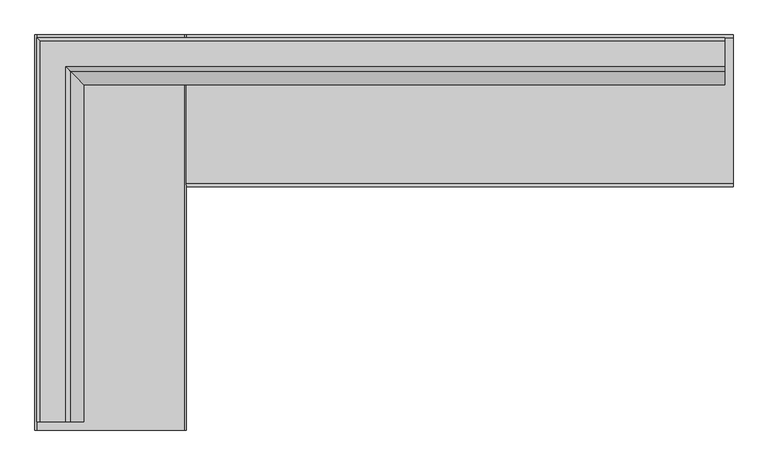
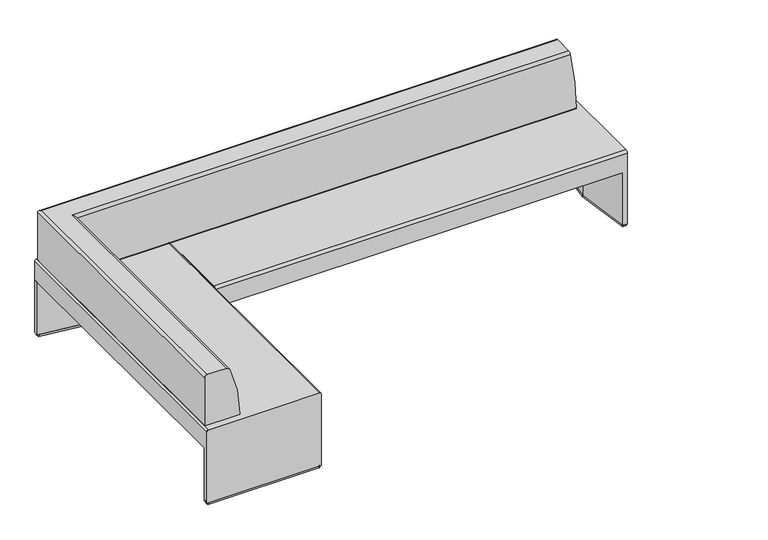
"""IFC4 building model written with IfcOpenShell, lengths in millimetres: furniture geometry, Coalesse_AM_Seating_Bench_Together_LeftCorner : 1.5in Back Offset - 69.75D x 123.25W."""

from ifc_helpers import new_model, si_unit, point, frame, frame_2d, origin, origin_with_axes, place, context, project, spatial, polyline, circle_curve, ellipse_curve, trimmed, segment, composite_curve, outline, extrude, source, transform, mapped, element, save
from ifc_brep_helpers import plane_surface, cylinder_surface, advanced_brep


def furniture_92f7da50(model_context):
    return source(origin(), model_context, "Body", "SolidModel", [
        extrude(outline(composite_curve([segment(polyline([(2381.1760341, 342.7173042), (2424.8994541, 668.3404046)]), True, "CONTINUOUS"), segment(trimmed(circle_curve(frame_2d((2431.8678665, 667.4047129)), 7.0309522), [point((2424.8994541, 668.3404046))], [point((2431.8621236, 674.4356628))], False, "CARTESIAN"), True, "CONTINUOUS"), segment(polyline([(2431.8621236, 674.4356628), (2444.385141, 674.4458915)]), True, "CONTINUOUS"), segment(trimmed(circle_curve(frame_2d((2444.3903277, 668.0958937)), 6.35), [point((2444.385141, 674.4458915))], [point((2450.7403256, 668.1010803))], False, "CARTESIAN"), True, "CONTINUOUS"), segment(polyline([(2450.7403256, 668.1010803), (2451.2758418, 12.4700002)]), True, "CONTINUOUS"), segment(trimmed(circle_curve(frame_2d((2444.9258439, 12.4648135)), 6.35), [point((2451.2758418, 12.4700002))], [point((2444.9310305, 6.1148157))], False, "CARTESIAN"), True, "CONTINUOUS"), segment(polyline([(2444.9310305, 6.1148157), (2432.4737657, 6.1046406)]), True, "CONTINUOUS"), segment(trimmed(circle_curve(frame_2d((2432.4685791, 12.4546385)), 6.35), [point((2432.4737657, 6.1046406))], [point((2426.1764214, 11.5995062))], False, "CARTESIAN"), True, "CONTINUOUS"), segment(polyline([(2426.1764214, 11.5995062), (2381.1760341, 342.7173042)]), True, "CONTINUOUS")], self_intersect=False)), origin_with_axes(), (0.0, 0.0, 1.0), 12.7976677),
        extrude(outline(composite_curve([segment(polyline([(-342.242834, 610.6565573), (-667.8301127, 654.6459299)]), True, "CONTINUOUS"), segment(trimmed(circle_curve(frame_2d((-666.8887296, 661.6135757)), 7.0309522), [point((-667.8301127, 654.6459299))], [point((-673.9196818, 661.6135757))], False, "CARTESIAN"), True, "CONTINUOUS"), segment(polyline([(-673.9196818, 661.6135757), (-673.9196818, 674.1365973)]), True, "CONTINUOUS"), segment(trimmed(circle_curve(frame_2d((-667.5696818, 674.1365973)), 6.35), [point((-673.9196818, 674.1365973))], [point((-667.5696818, 680.4865973))], False, "CARTESIAN"), True, "CONTINUOUS"), segment(polyline([(-667.5696818, 680.4865973), (-11.938383, 680.4865973)]), True, "CONTINUOUS"), segment(trimmed(circle_curve(frame_2d((-11.938383, 674.1365973)), 6.35), [point((-11.938383, 680.4865973))], [point((-5.588383, 674.1365973))], False, "CARTESIAN"), True, "CONTINUOUS"), segment(polyline([(-5.588383, 674.1365973), (-5.588383, 661.6793283)]), True, "CONTINUOUS"), segment(trimmed(circle_curve(frame_2d((-11.938383, 661.6793283)), 6.35), [point((-5.588383, 661.6793283))], [point((-11.0883904, 655.3864742))], False, "CARTESIAN"), True, "CONTINUOUS"), segment(polyline([(-11.0883904, 655.3864742), (-342.242834, 610.6565573)]), True, "CONTINUOUS")], self_intersect=False)), origin_with_axes(), (0.0, 0.0, 1.0), 12.7976677),
        extrude(outline(composite_curve([segment(polyline([(-342.242834, -1020.6704812), (-11.0883904, -1065.4003981)]), True, "CONTINUOUS"), segment(trimmed(circle_curve(frame_2d((-11.938383, -1071.6932522)), 6.35), [point((-11.0883904, -1065.4003981))], [point((-5.588383, -1071.6932522))], False, "CARTESIAN"), True, "CONTINUOUS"), segment(polyline([(-5.588383, -1071.6932522), (-5.588383, -1084.1505212)]), True, "CONTINUOUS"), segment(trimmed(circle_curve(frame_2d((-11.938383, -1084.1505212)), 6.35), [point((-5.588383, -1084.1505212))], [point((-11.938383, -1090.5005212))], False, "CARTESIAN"), True, "CONTINUOUS"), segment(polyline([(-11.938383, -1090.5005212), (-667.5696818, -1090.5005212)]), True, "CONTINUOUS"), segment(trimmed(circle_curve(frame_2d((-667.5696818, -1084.1505212)), 6.35), [point((-667.5696818, -1090.5005212))], [point((-673.9196818, -1084.1505212))], False, "CARTESIAN"), True, "CONTINUOUS"), segment(polyline([(-673.9196818, -1084.1505212), (-673.9196818, -1071.6274996)]), True, "CONTINUOUS"), segment(trimmed(circle_curve(frame_2d((-666.8887296, -1071.6274996)), 7.0309522), [point((-673.9196818, -1071.6274996))], [point((-667.8301127, -1064.6598538))], False, "CARTESIAN"), True, "CONTINUOUS"), segment(polyline([(-667.8301127, -1064.6598538), (-342.242834, -1020.6704812)]), True, "CONTINUOUS")], self_intersect=False)), origin_with_axes(), (0.0, 0.0, 1.0), 12.7976677),
        advanced_brep(
        [(2451.2283223, 12.7, 471.2287949), (2451.2283223, 0.0, 458.5287949), (2451.2283223, 0.0, 12.7976677), (2451.2283223, 680.4865973, 12.7976677), (2451.2283223, 680.4865973, 458.5287949), (2451.2283223, 667.7865973, 471.2287949), (0.0, 12.7, 471.2287949), (0.0, 667.7865973, 471.2287949), (0.0, 680.4865973, 458.5287949), (0.0, 680.4865973, 343.3718099), (0.0, 0.0, 343.3718099), (0.0, 0.0, 458.5287949), (2425.0526241, 0.0, 343.3718099), (2425.0515424, 0.0, 12.7976677), (2425.3585944, 680.4865973, 343.3718099), (2380.7200419, 337.8527218, 343.3718099), (2425.3596556, 680.4865973, 12.7976677), (2380.7200419, 337.8527218, 12.7976677)],
        [
            (0, 1, circle_curve(frame((2451.2283223, 12.7, 458.5287949), z_axis=(1.0, 0.0, 0.0), x_axis=(0.0, -1.0, 0.0)), 12.7)),
            (1, 2),
            (2, 3),
            (3, 4),
            (4, 5, circle_curve(frame((2451.2283223, 667.7865973, 458.5287949), z_axis=(1.0, 0.0, 0.0), x_axis=(0.0, -1.0, 0.0)), 12.7)),
            (5, 0),
            (6, 7),
            (7, 8, circle_curve(frame((0.0, 667.7865973, 458.5287949), z_axis=(-1.0, 0.0, 0.0), x_axis=(0.0, -1.0, 0.0)), 12.7)),
            (8, 9),
            (9, 10),
            (10, 11),
            (11, 6, circle_curve(frame((0.0, 12.7, 458.5287949), z_axis=(-1.0, 0.0, 0.0), x_axis=(0.0, -1.0, 0.0)), 12.7)),
            (0, 6),
            (11, 1),
            (10, 12),
            (12, 13),
            (13, 2),
            (9, 14),
            (14, 15),
            (15, 12),
            (3, 16),
            (16, 14),
            (8, 4),
            (7, 5),
            (17, 16),
            (13, 17),
            (15, 17),
        ],
        [
            plane_surface(frame((2451.2283223, 0.0, 458.5287949), z_axis=(1.0, 0.0, 0.0), x_axis=(0.0, 0.0, -1.0))),
            plane_surface(frame((0.0, 0.0, 458.5287949), z_axis=(-1.0, 0.0, 0.0), x_axis=(0.0, 0.0, 1.0))),
            cylinder_surface(frame((0.0, 12.7, 458.5287949), z_axis=(1.0, 0.0, 0.0), x_axis=(0.0, -1.0, 0.0)), 12.7),
            plane_surface(frame((2451.2283223, 0.0, 458.5287949), z_axis=(0.0, -1.0, 0.0), x_axis=(-1.0, 0.0, 0.0))),
            plane_surface(frame((2451.2283223, 0.0, 343.3718099), z_axis=(0.0, 0.0, -1.0), x_axis=(-1.0, 0.0, 0.0))),
            plane_surface(frame((2451.2283223, 680.4865973, 343.3718099), z_axis=(0.0, 1.0, 0.0), x_axis=(-1.0, 0.0, 0.0))),
            cylinder_surface(frame((0.0, 667.7865973, 458.5287949), z_axis=(1.0, 0.0, 0.0), x_axis=(0.0, -1.0, 0.0)), 12.7),
            plane_surface(frame((2451.2283223, 667.7865973, 471.2287949), z_axis=(0.0, 0.0, 1.0), x_axis=(-1.0, 0.0, 0.0))),
            plane_surface(frame((2380.7200419, 337.8527218, 12.7976677), z_axis=(0.0, 0.0, -1.0), x_axis=(-0.13010336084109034, 0.9915004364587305, 0.0))),
            plane_surface(frame((2380.7200419, 337.8527218, 343.3718099), z_axis=(-0.9915004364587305, -0.13010336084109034, 0.0), x_axis=(0.0, 0.0, -1.0))),
            plane_surface(frame((2425.3596556, 680.4947435, 343.3718099), z_axis=(-0.9916200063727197, 0.1291888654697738, 0.0), x_axis=(0.0, 0.0, -1.0))),
        ],
        [
            (0, [[1, 2, 3, 4, 5, 6]]),
            (1, [[7, 8, 9, 10, 11, 12]]),
            (2, [[-1, 13, -12, 14]]),
            (3, [[-2, -14, -11, 15, 16, 17]]),
            (4, [[-10, 18, 19, 20, -15]]),
            (5, [[-4, 21, 22, -18, -9, 23]]),
            (6, [[-5, -23, -8, 24]]),
            (7, [[-6, -24, -7, -13]]),
            (8, [[25, -21, -3, -17, 26]]),
            (9, [[-26, -16, -20, 27]]),
            (10, [[-25, -27, -19, -22]]),
        ],
    ),
        advanced_brep(
        [(0.0, -1091.3836068, 462.8584293), (-8.3703656, -1091.3836068, 471.2287949), (-669.1616777, -1091.3836068, 471.2287949), (-679.3216777, -1091.3836068, 461.0687949), (-679.3216777, -1091.3836068, 12.7976677), (0.0, -1091.3836068, 12.7976677), (0.0, 680.2663932, 343.3718099), (-679.3216777, 680.2663932, 343.3718099), (-679.3216777, 680.2663932, 461.0687949), (-669.1616777, 680.2663932, 471.2287949), (-8.3703656, 680.2663932, 471.2287949), (0.0, 680.2663932, 462.8584293), (0.0, -1065.3918934, 12.7976677), (0.0, -1065.3918934, 343.3718099), (-679.3216777, -1065.3918934, 343.3718099), (-679.3216777, -1065.3918934, 12.7976677), (-337.6103648, -1020.9829621, 343.3718099), (-337.6103648, -1020.9829621, 12.7976677)],
        [
            (0, 1, circle_curve(frame((-8.3703656, -1091.3836068, 462.8584293), z_axis=(0.0, -1.0, 0.0), x_axis=(1.0, 0.0, 0.0)), 8.3703656)),
            (1, 2),
            (2, 3, circle_curve(frame((-669.1616777, -1091.3836068, 461.0687949), z_axis=(0.0, -1.0, 0.0), x_axis=(1.0, 0.0, 0.0)), 10.16)),
            (3, 4),
            (4, 5),
            (5, 0),
            (6, 7),
            (7, 8),
            (8, 9, circle_curve(frame((-669.1616777, 680.2663932, 461.0687949), z_axis=(0.0, 1.0, 0.0), x_axis=(1.0, 0.0, 0.0)), 10.16)),
            (9, 10),
            (10, 11, circle_curve(frame((-8.3703656, 680.2663932, 462.8584293), z_axis=(0.0, 1.0, 0.0), x_axis=(1.0, 0.0, 0.0)), 8.3703656)),
            (11, 6),
            (5, 12),
            (12, 13),
            (13, 6),
            (11, 0),
            (10, 1),
            (9, 2),
            (8, 3),
            (7, 14),
            (14, 15),
            (15, 4),
            (13, 16),
            (16, 14),
            (17, 12),
            (15, 17),
            (16, 17),
        ],
        [
            plane_surface(frame((0.0, -1091.3836068, 432.906134), z_axis=(0.0, -1.0, 0.0), x_axis=(0.0, 0.0, 1.0))),
            plane_surface(frame((0.0, 680.2663932, 432.906134), z_axis=(0.0, 1.0, 0.0), x_axis=(0.0, 0.0, -1.0))),
            plane_surface(frame((0.0, -1091.3836068, 343.3718099), z_axis=(1.0, 0.0, 0.0), x_axis=(0.0, 1.0, 0.0))),
            cylinder_surface(frame((-8.3703656, 680.2663932, 462.8584293), z_axis=(0.0, -1.0, 0.0), x_axis=(1.0, 0.0, 0.0)), 8.3703656),
            plane_surface(frame((-8.3703656, -1091.3836068, 471.2287949), z_axis=(0.0, 0.0, 1.0), x_axis=(0.0, 1.0, 0.0))),
            cylinder_surface(frame((-669.1616777, 680.2663932, 461.0687949), z_axis=(0.0, -1.0, 0.0), x_axis=(1.0, 0.0, 0.0)), 10.16),
            plane_surface(frame((-679.3216777, -1091.3836068, 461.0687949), z_axis=(-1.0, 0.0, 0.0), x_axis=(0.0, 1.0, 0.0))),
            plane_surface(frame((-679.3216777, -1091.3836068, 343.3718099), z_axis=(0.0, 0.0, -1.0), x_axis=(0.0, 1.0, 0.0))),
            plane_surface(frame((-679.3216777, -1065.3918934, 12.7976677), z_axis=(0.0, 0.0, -1.0), x_axis=(0.9916606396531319, 0.12887659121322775, 0.0))),
            plane_surface(frame((-337.6103648, -1020.9829621, 343.3718099), z_axis=(-0.12887659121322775, 0.9916606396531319, 0.0), x_axis=(0.0, 0.0, -1.0))),
            plane_surface(frame((0.0, -1065.3918934, 343.3718099), z_axis=(0.13041558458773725, 0.9914594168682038, 0.0), x_axis=(0.0, 0.0, -1.0))),
        ],
        [
            (0, [[1, 2, 3, 4, 5, 6]]),
            (1, [[7, 8, 9, 10, 11, 12]]),
            (2, [[-6, 13, 14, 15, -12, 16]]),
            (3, [[-1, -16, -11, 17]]),
            (4, [[-2, -17, -10, 18]]),
            (5, [[-3, -18, -9, 19]]),
            (6, [[-4, -19, -8, 20, 21, 22]]),
            (7, [[-7, -15, 23, 24, -20]]),
            (8, [[25, -13, -5, -22, 26]]),
            (9, [[-26, -21, -24, 27]]),
            (10, [[-25, -27, -23, -14]]),
        ],
    ),
        extrude(outline(polyline([(-337.6103648, 610.0859526), (-679.4232219, 654.5080806), (-679.4232219, 680.4865973), (0.0, 680.4865973), (0.0, 654.4948838), (-337.6103648, 610.0859526)])), frame((0.0, 0.0, 12.7976677), z_axis=(0.0, 0.0, 1.0), x_axis=(1.0, 0.0, 0.0)), (0.0, 0.0, 1.0), 330.5741422),
        advanced_brep(
        [(-542.7579952, -1053.2836068, 789.6908243), (-654.9720681, -1053.2836068, 789.6908243), (-670.6127132, -1053.2836068, 774.0501793), (-670.6127132, -1053.2836068, 471.9907949), (-669.8507132, -1053.2836068, 471.2287949), (-467.2326916, -1053.2836068, 471.2287949), (-460.8827115, -1053.2836068, 477.5628851), (-521.8690853, -1053.2836068, 775.9296487), (-542.7579952, 539.2094278, 789.6908243), (2413.1283223, 539.2094278, 789.6908243), (2413.1283223, 651.4235007, 789.6908243), (-654.9720681, 651.4235007, 789.6908243), (-670.6127132, 667.0641458, 774.0501793), (-670.6127132, 667.0641458, 471.9907949), (-669.8507132, 666.3021458, 471.2287949), (2413.1283223, 666.3021458, 471.2287949), (2413.1283223, 463.6841242, 471.2287949), (-467.2326916, 463.6841242, 471.2287949), (-460.8827115, 457.3341441, 477.5628851), (-521.8690853, 518.3205179, 775.9296487), (2413.1283223, 518.3205179, 775.9296487), (2413.1283223, 457.3341441, 477.5628851), (2413.1283223, 667.0641458, 471.9907949), (2413.1283223, 667.0641458, 774.0501793)],
        [
            (0, 1),
            (1, 2, circle_curve(frame((-654.9720681, -1053.2836068, 774.0501793), z_axis=(0.0, -1.0, 0.0), x_axis=(-1.0, 0.0, 0.0)), 15.6406451)),
            (2, 3),
            (3, 4, circle_curve(frame((-669.8507132, -1053.2836068, 471.9907949), z_axis=(0.0, -1.0, 0.0), x_axis=(-1.0, 0.0, 0.0)), 0.762)),
            (4, 5),
            (5, 6, circle_curve(frame((-467.2326916, -1053.2836068, 477.5787949), z_axis=(0.0, -1.0, 0.0), x_axis=(-1.0, 0.0, 0.0)), 6.35)),
            (6, 7, circle_curve(frame((-1212.0260917, -1053.2836068, 479.4448666), z_axis=(0.0, -1.0, 0.0), x_axis=(-1.0, 0.0, 0.0)), 751.1457378)),
            (7, 0, circle_curve(frame((-542.7579952, -1053.2836068, 766.9559749), z_axis=(0.0, -1.0, 0.0), x_axis=(-1.0, 0.0, 0.0)), 22.7348495)),
            (0, 8),
            (8, 9),
            (9, 10),
            (10, 11),
            (11, 1),
            (11, 12, ellipse_curve(frame((-654.9720681, 651.4235007, 774.0501793), z_axis=(-0.7071067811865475, -0.7071067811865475, 0.0), x_axis=(0.7071067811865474, -0.7071067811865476, 0.0)), 22.1192124, 15.6406451)),
            (12, 2),
            (12, 13),
            (13, 3),
            (13, 14, ellipse_curve(frame((-669.8507132, 666.3021458, 471.9907949), z_axis=(-0.7071067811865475, -0.7071067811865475, 0.0), x_axis=(0.7071067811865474, -0.7071067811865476, 0.0)), 1.0776307, 0.762)),
            (14, 4),
            (14, 15),
            (15, 16),
            (16, 17),
            (17, 5),
            (17, 18, ellipse_curve(frame((-467.2326916, 463.6841242, 477.5787949), z_axis=(-0.7071067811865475, -0.7071067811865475, 0.0), x_axis=(0.7071067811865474, -0.7071067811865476, 0.0)), 8.9802561, 6.35)),
            (18, 6),
            (18, 19, ellipse_curve(frame((-1212.0260917, 1208.4775243, 479.4448666), z_axis=(-0.7071067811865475, -0.7071067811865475, 0.0), x_axis=(0.7071067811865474, -0.7071067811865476, 0.0)), 1062.2804897, 751.1457378)),
            (19, 7),
            (19, 8, ellipse_curve(frame((-542.7579952, 539.2094278, 766.9559749), z_axis=(-0.7071067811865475, -0.7071067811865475, 0.0), x_axis=(0.7071067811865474, -0.7071067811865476, 0.0)), 32.1519324, 22.7348495)),
            (9, 20, circle_curve(frame((2413.1283223, 539.2094278, 766.9559749), z_axis=(1.0, 0.0, 0.0), x_axis=(0.0, 1.0, 0.0)), 22.7348495)),
            (20, 21, circle_curve(frame((2413.1283223, 1208.4775243, 479.4448666), z_axis=(1.0, 0.0, 0.0), x_axis=(0.0, 1.0, 0.0)), 751.1457378)),
            (21, 16, circle_curve(frame((2413.1283223, 463.6841242, 477.5787949), z_axis=(1.0, 0.0, 0.0), x_axis=(0.0, 1.0, 0.0)), 6.35)),
            (15, 22, circle_curve(frame((2413.1283223, 666.3021458, 471.9907949), z_axis=(1.0, 0.0, 0.0), x_axis=(0.0, 1.0, 0.0)), 0.762)),
            (22, 23),
            (23, 10, circle_curve(frame((2413.1283223, 651.4235007, 774.0501793), z_axis=(1.0, 0.0, 0.0), x_axis=(0.0, 1.0, 0.0)), 15.6406451)),
            (23, 12),
            (22, 13),
            (21, 18),
            (20, 19),
        ],
        [
            plane_surface(frame((-460.0482755, -1053.2836068, 0.0), z_axis=(0.0, -1.0, 0.0), x_axis=(0.0, 0.0, 1.0))),
            plane_surface(frame((-542.7579952, -1053.2836068, 789.6908243), z_axis=(0.0, 0.0, 1.0), x_axis=(0.0, 1.0, 0.0))),
            cylinder_surface(frame((-654.9720681, -1053.2836068, 774.0501793), z_axis=(0.0, -1.0, 0.0), x_axis=(-1.0, 0.0, 0.0)), 15.6406451),
            plane_surface(frame((-670.6127132, -1053.2836068, 774.0501793), z_axis=(-1.0, 0.0, 0.0), x_axis=(0.0, 1.0, 0.0))),
            cylinder_surface(frame((-669.8507132, -1053.2836068, 471.9907949), z_axis=(0.0, -1.0, 0.0), x_axis=(-1.0, 0.0, 0.0)), 0.762),
            plane_surface(frame((-669.8507132, -1053.2836068, 471.2287949), z_axis=(0.0, 0.0, -1.0), x_axis=(0.0, 1.0, 0.0))),
            cylinder_surface(frame((-467.2326916, -1053.2836068, 477.5787949), z_axis=(0.0, -1.0, 0.0), x_axis=(-1.0, 0.0, 0.0)), 6.35),
            cylinder_surface(frame((-1212.0260917, -1053.2836068, 479.4448666), z_axis=(0.0, -1.0, 0.0), x_axis=(-1.0, 0.0, 0.0)), 751.1457378),
            cylinder_surface(frame((-542.7579952, -1053.2836068, 766.9559749), z_axis=(0.0, -1.0, 0.0), x_axis=(-1.0, 0.0, 0.0)), 22.7348495),
            plane_surface(frame((2413.1283223, 456.4997081, 0.0), z_axis=(1.0, 0.0, 0.0), x_axis=(0.0, 0.0, 1.0))),
            cylinder_surface(frame((-460.0482755, 651.4235007, 774.0501793), z_axis=(-1.0, 0.0, 0.0), x_axis=(0.0, 1.0, 0.0)), 15.6406451),
            plane_surface(frame((-670.6127132, 667.0641458, 774.0501793), z_axis=(0.0, 1.0, 0.0), x_axis=(1.0, 0.0, 0.0))),
            cylinder_surface(frame((-460.0482755, 666.3021458, 471.9907949), z_axis=(-1.0, 0.0, 0.0), x_axis=(0.0, 1.0, 0.0)), 0.762),
            cylinder_surface(frame((-460.0482755, 463.6841242, 477.5787949), z_axis=(-1.0, 0.0, 0.0), x_axis=(0.0, 1.0, 0.0)), 6.35),
            cylinder_surface(frame((-460.0482755, 1208.4775243, 479.4448666), z_axis=(-1.0, 0.0, 0.0), x_axis=(0.0, 1.0, 0.0)), 751.1457378),
            cylinder_surface(frame((-460.0482755, 539.2094278, 766.9559749), z_axis=(-1.0, 0.0, 0.0), x_axis=(0.0, 1.0, 0.0)), 22.7348495),
        ],
        [
            (0, [[1, 2, 3, 4, 5, 6, 7, 8]]),
            (1, [[-1, 9, 10, 11, 12, 13]]),
            (2, [[-2, -13, 14, 15]]),
            (3, [[-3, -15, 16, 17]]),
            (4, [[-4, -17, 18, 19]]),
            (5, [[-5, -19, 20, 21, 22, 23]]),
            (6, [[-6, -23, 24, 25]]),
            (7, [[-7, -25, 26, 27]]),
            (8, [[-8, -27, 28, -9]]),
            (9, [[29, 30, 31, -21, 32, 33, 34, -11]]),
            (10, [[-14, -12, -34, 35]]),
            (11, [[-16, -35, -33, 36]]),
            (12, [[-18, -36, -32, -20]]),
            (13, [[-24, -22, -31, 37]]),
            (14, [[-26, -37, -30, 38]]),
            (15, [[-28, -38, -29, -10]]),
        ],
    ),
    ])


if __name__ == "__main__":
    model = new_model("IFC4")
    model_context = context("Model", 3, world=origin())
    ifc_project = project(units=[si_unit("LENGTHUNIT", "METRE", prefix="MILLI")], contexts=[model_context])
    site = spatial("IfcSite", under=ifc_project)
    building = spatial("IfcBuilding", under=site)
    placement = place(None, origin())
    furniture_shape = furniture_92f7da50(model_context)
    element("IfcFurniture", 1, ObjectType="Coalesse_AM_Seating_Bench_Together_LeftCorner : 1.5in Back Offset - 69.75D x 123.25W", at=placement, inside=building, context=model_context, shape_type="MappedRepresentation", body=[
        mapped(furniture_shape, transform((0.0, 0.0, 0.0), x_axis=(1.0, 0.0, 0.0), y_axis=(0.0, 1.0, 0.0), z_axis=(0.0, 0.0, 1.0))),
    ])
    save(model, "model.ifc")
